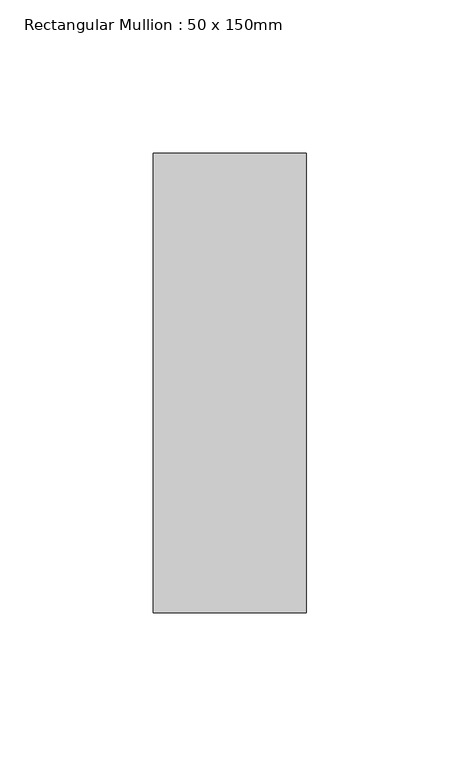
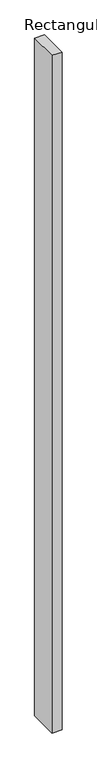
"""IFC4 building model written with IfcOpenShell, lengths in millimetres: member geometry, Rectangular Mullion : 50 x 150mm."""

from ifc_helpers import new_model, si_unit, frame, origin, place, context, project, spatial, polyline, outline, extrude, source, transform, mapped, element, save


def rectangular_mullion_50_x_150mm_55b3505a(model_context):
    return source(origin(), model_context, "Body", "SweptSolid", [
        extrude(outline(polyline([(0.0, 75.0), (0.0, -75.0), (-50.0, -75.0), (-50.0, 75.0), (0.0, 75.0)])), frame((0.0, 0.0, -3588.3715849), z_axis=(0.0, 0.0, 1.0), x_axis=(1.0, 0.0, 0.0)), (0.0, 0.0, 1.0), 3588.3715849),
    ])


if __name__ == "__main__":
    model = new_model("IFC4")
    model_context = context("Model", 3, world=origin())
    ifc_project = project(units=[si_unit("LENGTHUNIT", "METRE", prefix="MILLI")], contexts=[model_context])
    site = spatial("IfcSite", under=ifc_project)
    building = spatial("IfcBuilding", under=site)
    placement = place(None, origin())
    rectangular_mullion_50_x_150mm_shape = rectangular_mullion_50_x_150mm_55b3505a(model_context)
    element("IfcMember", 1, ObjectType="Rectangular Mullion : 50 x 150mm", at=placement, inside=building, context=model_context, shape_type="MappedRepresentation", body=[
        mapped(rectangular_mullion_50_x_150mm_shape, transform((0.0, 0.0, 0.0), x_axis=(1.0, 0.0, 0.0), y_axis=(0.0, 1.0, 0.0), z_axis=(0.0, 0.0, 1.0))),
    ])
    save(model, "model.ifc")
